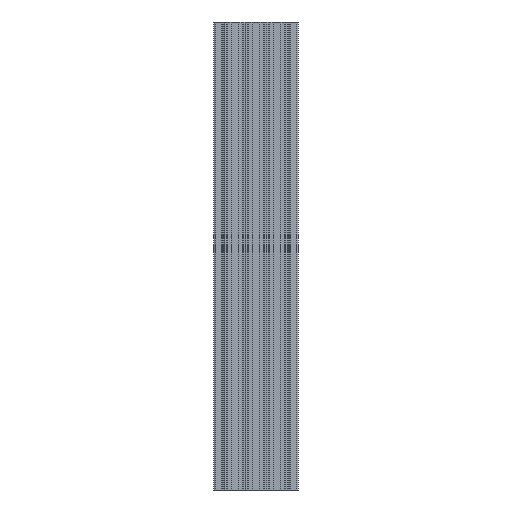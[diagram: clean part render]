
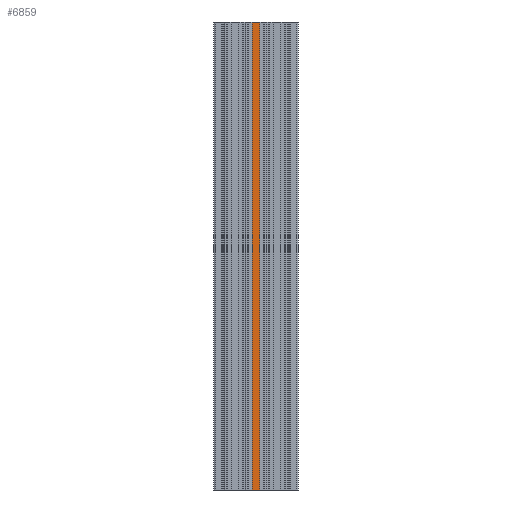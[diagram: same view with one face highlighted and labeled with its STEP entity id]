
A CAD part, front view. The second image highlights one B-rep face of the part: STEP entity #6859.
In plain terms, the highlighted planar face has unit normal (0, -1, 0).
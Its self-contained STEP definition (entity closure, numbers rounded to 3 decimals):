
#456 = ORIENTED_EDGE ( 'NONE', *, *, #20914, .F. ) ;
#799 = CARTESIAN_POINT ( 'NONE',  ( 8., -44.25, -1000. ) ) ;
#1544 = EDGE_CURVE ( 'NONE', #1889, #8131, #19854, .T. ) ;
#1578 = CARTESIAN_POINT ( 'NONE',  ( -8., -44.25, 0. ) ) ;
#1889 = VERTEX_POINT ( 'NONE', #11009 ) ;
#3545 = LINE ( 'NONE', #27872, #28608 ) ;
#3633 = LINE ( 'NONE', #799, #27650 ) ;
#4051 = ORIENTED_EDGE ( 'NONE', *, *, #30339, .T. ) ;
#5792 = VECTOR ( 'NONE', #8920, 1000. ) ;
#5980 = ORIENTED_EDGE ( 'NONE', *, *, #1544, .T. ) ;
#6859 = ADVANCED_FACE ( 'NONE', ( #23294 ), #15963, .T. ) ;
#8131 = VERTEX_POINT ( 'NONE', #26526 ) ;
#8324 = DIRECTION ( 'NONE',  ( 0., 0., 1. ) ) ;
#8920 = DIRECTION ( 'NONE',  ( 1., 0., 0. ) ) ;
#9049 = DIRECTION ( 'NONE',  ( 1., 0., 0. ) ) ;
#10124 = VECTOR ( 'NONE', #9049, 1000. ) ;
#11009 = CARTESIAN_POINT ( 'NONE',  ( -8., -44.25, -1000. ) ) ;
#15213 = VERTEX_POINT ( 'NONE', #21116 ) ;
#15963 = PLANE ( 'NONE',  #25996 ) ;
#16815 = ORIENTED_EDGE ( 'NONE', *, *, #29415, .F. ) ;
#19238 = DIRECTION ( 'NONE',  ( 0., -1., 0. ) ) ;
#19854 = LINE ( 'NONE', #28619, #10124 ) ;
#20914 = EDGE_CURVE ( 'NONE', #1889, #32597, #3545, .T. ) ;
#21116 = CARTESIAN_POINT ( 'NONE',  ( 8., -44.25, 0. ) ) ;
#23203 = EDGE_LOOP ( 'NONE', ( #16815, #456, #5980, #4051 ) ) ;
#23294 = FACE_OUTER_BOUND ( 'NONE', #23203, .T. ) ;
#25996 = AXIS2_PLACEMENT_3D ( 'NONE', #38749, #19238, #42036 ) ;
#26526 = CARTESIAN_POINT ( 'NONE',  ( 8., -44.25, -1000. ) ) ;
#26959 = DIRECTION ( 'NONE',  ( 0., 0., 1. ) ) ;
#27650 = VECTOR ( 'NONE', #26959, 1000. ) ;
#27872 = CARTESIAN_POINT ( 'NONE',  ( -8., -44.25, -1000. ) ) ;
#28608 = VECTOR ( 'NONE', #8324, 1000. ) ;
#28619 = CARTESIAN_POINT ( 'NONE',  ( 0., -44.25, -1000. ) ) ;
#29415 = EDGE_CURVE ( 'NONE', #32597, #15213, #40473, .T. ) ;
#30339 = EDGE_CURVE ( 'NONE', #8131, #15213, #3633, .T. ) ;
#32597 = VERTEX_POINT ( 'NONE', #1578 ) ;
#34910 = CARTESIAN_POINT ( 'NONE',  ( 0., -44.25, 0. ) ) ;
#38749 = CARTESIAN_POINT ( 'NONE',  ( 0., -44.25, -1000. ) ) ;
#40473 = LINE ( 'NONE', #34910, #5792 ) ;
#42036 = DIRECTION ( 'NONE',  ( 0., 0., -1. ) ) ;
